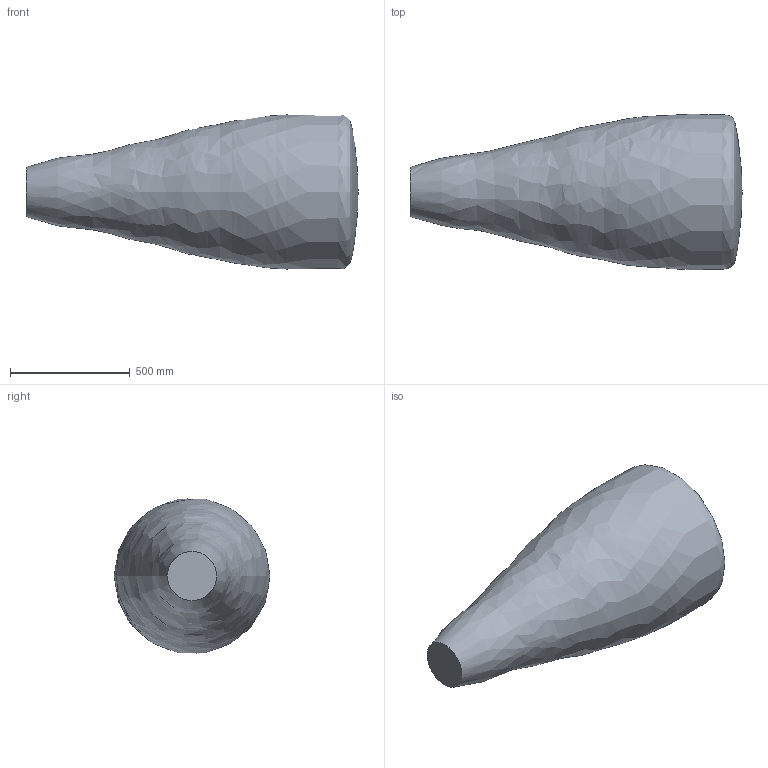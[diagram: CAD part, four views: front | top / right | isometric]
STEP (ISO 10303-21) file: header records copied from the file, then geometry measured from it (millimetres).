
FILE_DESCRIPTION((''),'2;1');
FILE_NAME('J:\Projekte\Kunststoff-Blechteile\Zeichnungen\Bibliothek Inventor\3D Solids\nero\STP\nero-100\detection range 100 plate.stp','2012-02-27T15:14:31',('Oliver Liedtke'),(''),'Autodesk Inventor 2009','Autodesk Inventor 2009','');
FILE_SCHEMA(('AUTOMOTIVE_DESIGN { 1 0 10303 214 1 1 1 1 }'));
Length unit declared in the file: millimetre
Products named in the file (1): detection range 100 plate
Bounding box: 1387.14 x 650.25 x 643.61 mm (x, y, z)
Volume: 278425345.2 mm3; surface area: 2439075.7 mm2
Topology: 1 solids, 1 shells, 2 faces, 3 edges, 2 vertices
Faces by surface type: revolution 1, plane 1
Entity records: 122 total; most frequent: CARTESIAN_POINT 52, DIRECTION 7, ORIENTED_EDGE 4, AXIS2_PLACEMENT_3D 3, DIMENSIONAL_EXPONENTS 2, PLANE_ANGLE_MEASURE_WITH_UNIT 2, UNCERTAINTY_MEASURE_WITH_UNIT 2, B_SPLINE_CURVE_WITH_KNOTS 2
